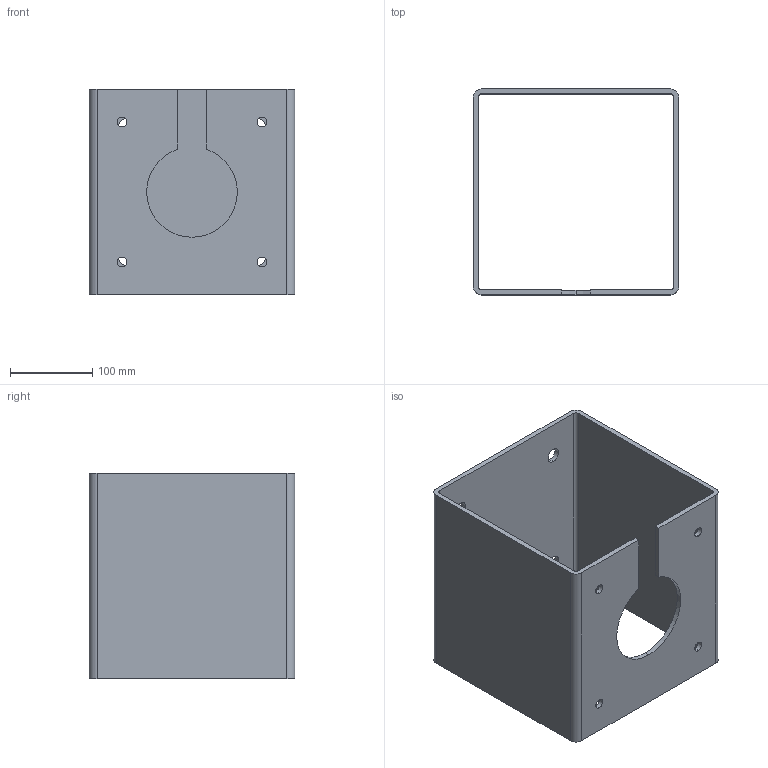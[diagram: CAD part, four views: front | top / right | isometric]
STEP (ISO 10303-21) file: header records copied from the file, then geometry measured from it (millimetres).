
FILE_DESCRIPTION (( 'STEP AP214' ), '1' );
FILE_NAME ('ÒÒÝÎ-3.23.00.00.003 Êîðïóñ íåñóùèé.STEP', '2020-12-22T18:55:11', ( '' ), ( '' ), 'SwSTEP 2.0', 'SolidWorks 2018', '' );
FILE_SCHEMA (( 'AUTOMOTIVE_DESIGN' ));
Length unit declared in the file: millimetre
Products named in the file (1): ÒÒÝÎ-3.23.00.00.003 Êîðïóñ íåñóùèé
Bounding box: 250 x 250 x 250 mm (x, y, z)
Volume: 1365234 mm3; surface area: 471431.8 mm2
Topology: 1 solids, 1 shells, 38 faces, 111 edges, 74 vertices
Faces by surface type: cylinder 26, plane 12
Entity records: 1357 total; most frequent: DIRECTION 241, CARTESIAN_POINT 224, ORIENTED_EDGE 222, EDGE_CURVE 111, AXIS2_PLACEMENT_3D 91, VERTEX_POINT 74, LINE 59, VECTOR 59
